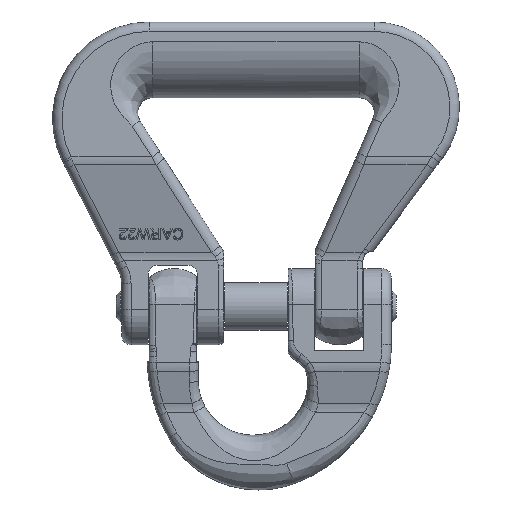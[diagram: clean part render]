
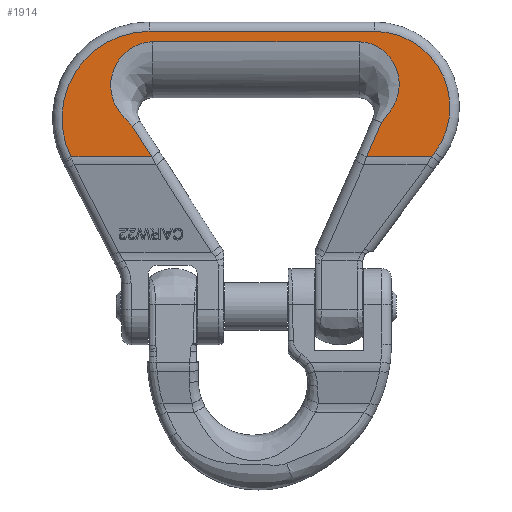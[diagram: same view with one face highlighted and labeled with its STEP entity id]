
A CAD part, top view. The second image highlights one B-rep face of the part: STEP entity #1914.
In plain terms, the highlighted planar face has unit normal (0, 0, 1).
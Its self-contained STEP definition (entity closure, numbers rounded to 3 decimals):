
#374=LINE('',#11175,#660);
#375=LINE('',#11177,#661);
#376=LINE('',#11179,#662);
#377=LINE('',#11183,#663);
#378=LINE('',#11187,#664);
#379=LINE('',#11189,#665);
#380=LINE('',#11234,#666);
#660=VECTOR('',#6815,1.);
#661=VECTOR('',#6816,1.);
#662=VECTOR('',#6817,1.);
#663=VECTOR('',#6820,1.);
#664=VECTOR('',#6823,1.);
#665=VECTOR('',#6824,1.);
#666=VECTOR('',#6825,1.);
#1091=B_SPLINE_CURVE_WITH_KNOTS('',3,(#11130,#11131,#11132,#11133,#11134,
#11135,#11136,#11137,#11138,#11139,#11140,#11141,#11142,#11143,#11144,#11145,
#11146,#11147,#11148,#11149,#11150,#11151,#11152,#11153,#11154,#11155,#11156,
#11157,#11158,#11159,#11160,#11161,#11162,#11163,#11164,#11165,#11166,#11167,
#11168,#11169,#11170,#11171,#11172),.UNSPECIFIED.,.F.,.F.,(4,1,2,2,1,2,2,
1,1,2,2,1,1,1,2,2,1,1,1,1,1,2,2,1,1,1,2,2,4),(0.,0.062,0.094,
0.125,0.187,0.219,0.25,
0.312,0.344,0.359,0.375,
0.438,0.469,0.484,0.492,
0.5,0.625,0.688,0.719,
0.734,0.742,0.746,0.75,
0.813,0.844,0.859,0.867,
0.875,1.),.UNSPECIFIED.);
#1092=B_SPLINE_CURVE_WITH_KNOTS('',3,(#11191,#11192,#11193,#11194,#11195,
#11196,#11197,#11198,#11199,#11200,#11201,#11202,#11203,#11204,#11205,#11206,
#11207,#11208,#11209,#11210,#11211,#11212,#11213,#11214,#11215,#11216,#11217,
#11218,#11219,#11220,#11221,#11222,#11223,#11224,#11225,#11226,#11227,#11228,
#11229,#11230,#11231,#11232),.UNSPECIFIED.,.F.,.F.,(4,1,1,2,2,1,1,1,1,2,
2,1,1,1,1,2,2,1,1,2,2,1,2,2,1,2,2,4),(0.,0.063,0.094,
0.109,0.125,0.188,0.219,0.234,
0.242,0.246,0.25,0.375,
0.438,0.469,0.484,0.492,
0.5,0.563,0.594,0.609,
0.625,0.688,0.719,0.75,
0.813,0.844,0.875,1.),.UNSPECIFIED.);
#1369=PLANE('',#6100);
#1569=FACE_OUTER_BOUND('',#2408,.T.);
#1914=ADVANCED_FACE('',(#1569),#1369,.F.);
#2408=EDGE_LOOP('',(#3389,#3390,#3391,#3392,#3393,#3394,#3395,#3396,#3397,
#3398,#3399));
#3389=ORIENTED_EDGE('',*,*,#5362,.T.);
#3390=ORIENTED_EDGE('',*,*,#5363,.T.);
#3391=ORIENTED_EDGE('',*,*,#5364,.T.);
#3392=ORIENTED_EDGE('',*,*,#5365,.T.);
#3393=ORIENTED_EDGE('',*,*,#5366,.T.);
#3394=ORIENTED_EDGE('',*,*,#5367,.T.);
#3395=ORIENTED_EDGE('',*,*,#5368,.T.);
#3396=ORIENTED_EDGE('',*,*,#5369,.T.);
#3397=ORIENTED_EDGE('',*,*,#5370,.T.);
#3398=ORIENTED_EDGE('',*,*,#5371,.T.);
#3399=ORIENTED_EDGE('',*,*,#5372,.T.);
#4696=VERTEX_POINT('',#11173);
#4697=VERTEX_POINT('',#11174);
#4698=VERTEX_POINT('',#11176);
#4699=VERTEX_POINT('',#11178);
#4700=VERTEX_POINT('',#11180);
#4701=VERTEX_POINT('',#11182);
#4702=VERTEX_POINT('',#11184);
#4703=VERTEX_POINT('',#11186);
#4704=VERTEX_POINT('',#11188);
#4705=VERTEX_POINT('',#11190);
#4706=VERTEX_POINT('',#11233);
#5362=EDGE_CURVE('',#4696,#4697,#1091,.T.);
#5363=EDGE_CURVE('',#4697,#4698,#374,.T.);
#5364=EDGE_CURVE('',#4698,#4699,#375,.T.);
#5365=EDGE_CURVE('',#4699,#4700,#376,.T.);
#5366=EDGE_CURVE('',#4700,#4701,#5838,.T.);
#5367=EDGE_CURVE('',#4701,#4702,#377,.T.);
#5368=EDGE_CURVE('',#4702,#4703,#5839,.T.);
#5369=EDGE_CURVE('',#4703,#4704,#378,.T.);
#5370=EDGE_CURVE('',#4704,#4705,#379,.T.);
#5371=EDGE_CURVE('',#4705,#4706,#1092,.T.);
#5372=EDGE_CURVE('',#4706,#4696,#380,.T.);
#5838=CIRCLE('',#6098,40.);
#5839=CIRCLE('',#6099,46.);
#6098=AXIS2_PLACEMENT_3D('',#11181,#6818,#6819);
#6099=AXIS2_PLACEMENT_3D('',#11185,#6821,#6822);
#6100=AXIS2_PLACEMENT_3D('',#11235,#6826,#6827);
#6815=DIRECTION('',(-0.404,-0.915,0.));
#6816=DIRECTION('',(1.,0.,0.));
#6817=DIRECTION('',(0.599,0.801,0.));
#6818=DIRECTION('',(0.,0.,1.));
#6819=DIRECTION('',(1.,0.,0.));
#6820=DIRECTION('',(-1.,0.,0.));
#6821=DIRECTION('',(0.,0.,1.));
#6822=DIRECTION('',(1.,0.,0.));
#6823=DIRECTION('',(1.,0.,0.));
#6824=DIRECTION('',(-0.539,0.842,0.));
#6825=DIRECTION('',(1.,0.,0.));
#6826=DIRECTION('',(0.,0.,-1.));
#6827=DIRECTION('',(1.,0.,0.));
#11130=CARTESIAN_POINT('',(55.25,186.75,29.5));
#11131=CARTESIAN_POINT('',(56.8,186.75,29.5));
#11132=CARTESIAN_POINT('',(59.082,186.478,29.5));
#11133=CARTESIAN_POINT('',(61.3,185.8,29.5));
#11134=CARTESIAN_POINT('',(62.764,185.258,29.5));
#11135=CARTESIAN_POINT('',(63.521,184.925,29.5));
#11136=CARTESIAN_POINT('',(65.576,183.889,29.5));
#11137=CARTESIAN_POINT('',(67.49,182.656,29.5));
#11138=CARTESIAN_POINT('',(69.19,181.126,29.5));
#11139=CARTESIAN_POINT('',(70.276,180.04,29.5));
#11140=CARTESIAN_POINT('',(70.824,179.43,29.5));
#11141=CARTESIAN_POINT('',(72.226,177.707,29.5));
#11142=CARTESIAN_POINT('',(73.443,175.879,29.5));
#11143=CARTESIAN_POINT('',(74.537,173.561,29.5));
#11144=CARTESIAN_POINT('',(74.937,172.529,29.5));
#11145=CARTESIAN_POINT('',(75.187,171.831,29.5));
#11146=CARTESIAN_POINT('',(75.314,171.45,29.5));
#11147=CARTESIAN_POINT('',(75.819,169.804,29.5));
#11148=CARTESIAN_POINT('',(76.246,167.806,29.5));
#11149=CARTESIAN_POINT('',(76.429,165.435,29.5));
#11150=CARTESIAN_POINT('',(76.442,164.24,29.5));
#11151=CARTESIAN_POINT('',(76.431,163.726,29.5));
#11152=CARTESIAN_POINT('',(76.42,163.383,29.5));
#11153=CARTESIAN_POINT('',(76.41,163.177,29.5));
#11154=CARTESIAN_POINT('',(76.281,160.819,29.5));
#11155=CARTESIAN_POINT('',(75.643,157.6,29.5));
#11156=CARTESIAN_POINT('',(74.099,154.042,29.5));
#11157=CARTESIAN_POINT('',(73.127,152.311,29.5));
#11158=CARTESIAN_POINT('',(72.592,151.459,29.5));
#11159=CARTESIAN_POINT('',(72.311,151.035,29.5));
#11160=CARTESIAN_POINT('',(72.189,150.854,29.5));
#11161=CARTESIAN_POINT('',(72.106,150.734,29.5));
#11162=CARTESIAN_POINT('',(72.039,150.637,29.5));
#11163=CARTESIAN_POINT('',(71.762,150.24,29.5));
#11164=CARTESIAN_POINT('',(71.205,149.497,29.5));
#11165=CARTESIAN_POINT('',(70.263,148.312,29.5));
#11166=CARTESIAN_POINT('',(69.718,147.639,29.5));
#11167=CARTESIAN_POINT('',(69.469,147.334,29.5));
#11168=CARTESIAN_POINT('',(69.3,147.126,29.5));
#11169=CARTESIAN_POINT('',(69.188,146.99,29.5));
#11170=CARTESIAN_POINT('',(68.12,145.688,29.5));
#11171=CARTESIAN_POINT('',(67.46,144.718,29.5));
#11172=CARTESIAN_POINT('',(67.144,144.003,29.5));
#11173=CARTESIAN_POINT('',(55.25,186.75,29.5));
#11174=CARTESIAN_POINT('',(67.144,144.003,29.5));
#11175=CARTESIAN_POINT('',(58.298,123.949,29.5));
#11176=CARTESIAN_POINT('',(59.188,125.967,29.5));
#11177=CARTESIAN_POINT('',(44.75,125.967,29.5));
#11178=CARTESIAN_POINT('',(93.543,125.967,29.5));
#11179=CARTESIAN_POINT('',(95.778,128.957,29.5));
#11180=CARTESIAN_POINT('',(95.286,128.298,29.5));
#11181=CARTESIAN_POINT('',(63.25,152.25,29.5));
#11182=CARTESIAN_POINT('',(63.25,192.25,29.5));
#11183=CARTESIAN_POINT('',(-55.75,192.25,29.5));
#11184=CARTESIAN_POINT('',(-55.75,192.25,29.5));
#11185=CARTESIAN_POINT('',(-55.75,146.25,29.5));
#11186=CARTESIAN_POINT('',(-97.037,125.967,29.5));
#11187=CARTESIAN_POINT('',(44.75,125.967,29.5));
#11188=CARTESIAN_POINT('',(-54.275,125.967,29.5));
#11189=CARTESIAN_POINT('',(-64.697,142.238,29.5));
#11190=CARTESIAN_POINT('',(-64.697,142.238,29.5));
#11191=CARTESIAN_POINT('',(-64.697,142.238,29.5));
#11192=CARTESIAN_POINT('',(-64.91,142.57,29.5));
#11193=CARTESIAN_POINT('',(-65.38,143.173,29.5));
#11194=CARTESIAN_POINT('',(-66.195,144.059,29.5));
#11195=CARTESIAN_POINT('',(-66.601,144.478,29.5));
#11196=CARTESIAN_POINT('',(-66.884,144.766,29.5));
#11197=CARTESIAN_POINT('',(-66.998,144.88,29.5));
#11198=CARTESIAN_POINT('',(-67.941,145.813,29.5));
#11199=CARTESIAN_POINT('',(-68.929,146.823,29.5));
#11200=CARTESIAN_POINT('',(-69.832,147.81,29.5));
#11201=CARTESIAN_POINT('',(-70.221,148.255,29.5));
#11202=CARTESIAN_POINT('',(-70.4,148.466,29.5));
#11203=CARTESIAN_POINT('',(-70.473,148.553,29.5));
#11204=CARTESIAN_POINT('',(-70.521,148.611,29.5));
#11205=CARTESIAN_POINT('',(-70.52,148.609,29.5));
#11206=CARTESIAN_POINT('',(-72.119,150.556,29.5));
#11207=CARTESIAN_POINT('',(-73.949,153.559,29.5));
#11208=CARTESIAN_POINT('',(-75.215,157.363,29.5));
#11209=CARTESIAN_POINT('',(-75.631,159.34,29.5));
#11210=CARTESIAN_POINT('',(-75.785,160.348,29.5));
#11211=CARTESIAN_POINT('',(-75.839,160.784,29.5));
#11212=CARTESIAN_POINT('',(-75.873,161.075,29.5));
#11213=CARTESIAN_POINT('',(-75.885,161.187,29.5));
#11214=CARTESIAN_POINT('',(-76.042,162.812,29.5));
#11215=CARTESIAN_POINT('',(-76.053,164.964,29.5));
#11216=CARTESIAN_POINT('',(-75.715,167.45,29.5));
#11217=CARTESIAN_POINT('',(-75.496,168.509,29.5));
#11218=CARTESIAN_POINT('',(-75.333,169.215,29.5));
#11219=CARTESIAN_POINT('',(-75.252,169.537,29.5));
#11220=CARTESIAN_POINT('',(-74.719,171.445,29.5));
#11221=CARTESIAN_POINT('',(-73.872,173.627,29.5));
#11222=CARTESIAN_POINT('',(-72.711,175.647,29.5));
#11223=CARTESIAN_POINT('',(-71.868,176.958,29.5));
#11224=CARTESIAN_POINT('',(-71.441,177.558,29.5));
#11225=CARTESIAN_POINT('',(-69.879,179.528,29.5));
#11226=CARTESIAN_POINT('',(-68.157,181.286,29.5));
#11227=CARTESIAN_POINT('',(-66.192,182.727,29.5));
#11228=CARTESIAN_POINT('',(-64.829,183.617,29.5));
#11229=CARTESIAN_POINT('',(-64.155,184.009,29.5));
#11230=CARTESIAN_POINT('',(-60.31,185.966,29.5));
#11231=CARTESIAN_POINT('',(-57.098,186.75,29.5));
#11232=CARTESIAN_POINT('',(-53.75,186.75,29.5));
#11233=CARTESIAN_POINT('',(-53.75,186.75,29.5));
#11234=CARTESIAN_POINT('',(55.25,186.75,29.5));
#11235=CARTESIAN_POINT('',(44.75,46.75,29.5));
